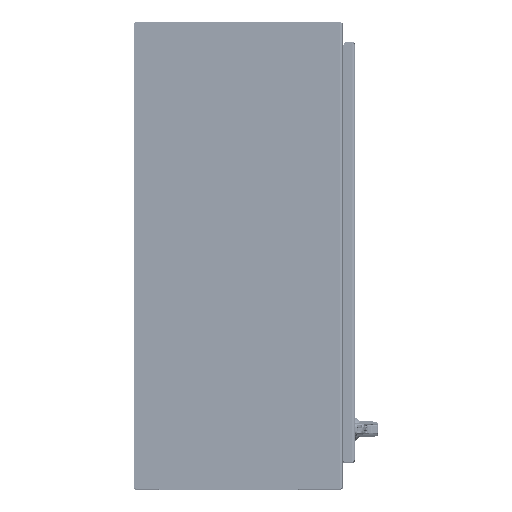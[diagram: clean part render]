
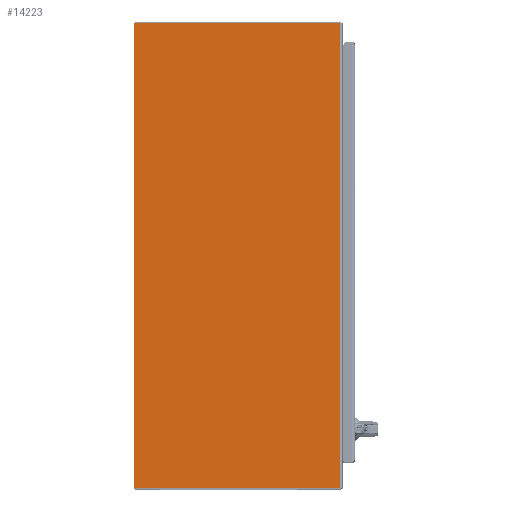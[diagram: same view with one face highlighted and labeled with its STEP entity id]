
A CAD part, top view. The second image highlights one B-rep face of the part: STEP entity #14223.
In plain terms, the highlighted planar face has unit normal (0, 0, 1) as drawn and (0, 1, 0) by its records, which use the part's own axes.
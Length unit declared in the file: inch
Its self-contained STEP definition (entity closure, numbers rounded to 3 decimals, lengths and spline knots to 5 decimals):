
#13438=CARTESIAN_POINT('',(-17.888,0.,-20.013));
#13439=DIRECTION('',(0.,1.,0.));
#13440=DIRECTION('',(0.,0.,-1.));
#13441=AXIS2_PLACEMENT_3D('',#13438,#13439,#13440);
#13446=CARTESIAN_POINT('',(-17.888,0.,20.013));
#13447=DIRECTION('',(0.,1.,0.));
#13448=DIRECTION('',(-1.,0.,0.));
#13449=AXIS2_PLACEMENT_3D('',#13446,#13447,#13448);
#13461=DIRECTION('',(0.,0.,-1.));
#13462=VECTOR('',#13461,40.026);
#13463=CARTESIAN_POINT('',(-17.948,0.,20.013));
#13464=LINE('',#13463,#13462);
#13489=DIRECTION('',(-1.,0.,0.));
#13490=VECTOR('',#13489,17.6415);
#13491=CARTESIAN_POINT('',(-0.2465,0.,20.073));
#13492=LINE('',#13491,#13490);
#13532=DIRECTION('',(0.,0.,1.));
#13533=VECTOR('',#13532,40.146);
#13534=CARTESIAN_POINT('',(-0.2465,0.,-20.073));
#13535=LINE('',#13534,#13533);
#13640=DIRECTION('',(-1.,0.,0.));
#13641=VECTOR('',#13640,17.6415);
#13642=CARTESIAN_POINT('',(-0.2465,0.,-20.073));
#13643=LINE('',#13642,#13641);
#14108=CARTESIAN_POINT('',(-0.2465,0.,20.073));
#14109=VERTEX_POINT('',#14108);
#14110=CARTESIAN_POINT('',(-0.2465,0.,-20.073));
#14111=VERTEX_POINT('',#14110);
#14136=CARTESIAN_POINT('',(-17.888,0.,-20.073));
#14137=CARTESIAN_POINT('',(-17.948,0.,-20.013));
#14138=VERTEX_POINT('',#14136);
#14139=VERTEX_POINT('',#14137);
#14144=CARTESIAN_POINT('',(-17.948,0.,20.013));
#14145=CARTESIAN_POINT('',(-17.888,0.,20.073));
#14146=VERTEX_POINT('',#14144);
#14147=VERTEX_POINT('',#14145);
#14204=CARTESIAN_POINT('',(0.,0.,20.073));
#14205=DIRECTION('',(0.,1.,0.));
#14206=DIRECTION('',(-1.,0.,0.));
#14207=AXIS2_PLACEMENT_3D('',#14204,#14205,#14206);
#14208=PLANE('',#14207);
#14210=ORIENTED_EDGE('',*,*,#14209,.F.);
#14212=ORIENTED_EDGE('',*,*,#14211,.F.);
#14214=ORIENTED_EDGE('',*,*,#14213,.T.);
#14216=ORIENTED_EDGE('',*,*,#14215,.T.);
#14218=ORIENTED_EDGE('',*,*,#14217,.F.);
#14220=ORIENTED_EDGE('',*,*,#14219,.T.);
#14221=EDGE_LOOP('',(#14210,#14212,#14214,#14216,#14218,#14220));
#14222=FACE_OUTER_BOUND('',#14221,.F.);
#13442=CIRCLE('',#13441,0.06);
#13450=CIRCLE('',#13449,0.06);
#14209=EDGE_CURVE('',#14138,#14139,#13442,.T.);
#14211=EDGE_CURVE('',#14111,#14138,#13643,.T.);
#14213=EDGE_CURVE('',#14111,#14109,#13535,.T.);
#14215=EDGE_CURVE('',#14109,#14147,#13492,.T.);
#14217=EDGE_CURVE('',#14146,#14147,#13450,.T.);
#14219=EDGE_CURVE('',#14146,#14139,#13464,.T.);
#14223=ADVANCED_FACE('',(#14222),#14208,.T.);
